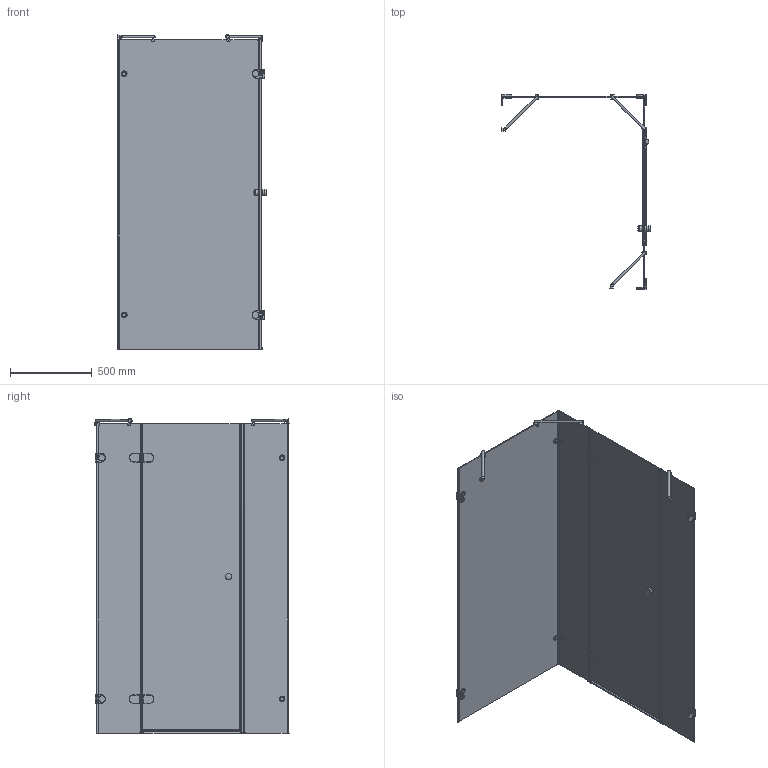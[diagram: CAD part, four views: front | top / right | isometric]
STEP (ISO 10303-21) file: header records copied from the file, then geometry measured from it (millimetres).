
FILE_DESCRIPTION(/* description */ (''),/* implementation_level */ '2;1');
FILE_NAME(/* name */ 'E:\Работа\Сергей\Душевые кабинки\! Работа\++++++++++\LUX RECTAN GK-004B\LUX RECTAN GK-004B правая модель\LUX RECTAN GK-004B ПРАВАЯ-3D.stp',/* time_stamp */ '2018-02-03T14:50:10+03:00',/* author */ ('PC'),/* organization */ (''),/* preprocessor_version */ 'ST-DEVELOPER v15.2',/* originating_system */ 'Autodesk Inventor 2014',/* authorisation */ '');
FILE_SCHEMA (('AUTOMOTIVE_DESIGN { 1 0 10303 214 3 1 1 }'));
Length unit declared in the file: millimetre
Products named in the file (1): LUX RECTAN GK-004B ПРАВАЯ-3D
Bounding box: 917.98 x 1191.98 x 1931.5 mm (x, y, z)
Volume: 24430884.4 mm3; surface area: 8428563.9 mm2
Topology: 24 solids, 24 shells, 702 faces, 1901 edges, 1254 vertices
Faces by surface type: plane 455, cylinder 179, torus 26, bspline 22, sphere 16, cone 4
Full cylindrical faces by diameter (mm): 15 x3, 20 x6, 26 x2, 35 x8, 38 x4, 40 x4
Entity records: 23050 total; most frequent: CARTESIAN_POINT 4775, ORIENTED_EDGE 3632, DIRECTION 3615, EDGE_CURVE 1816, LINE 1255, VECTOR 1255, VERTEX_POINT 1224, AXIS2_PLACEMENT_3D 1180
